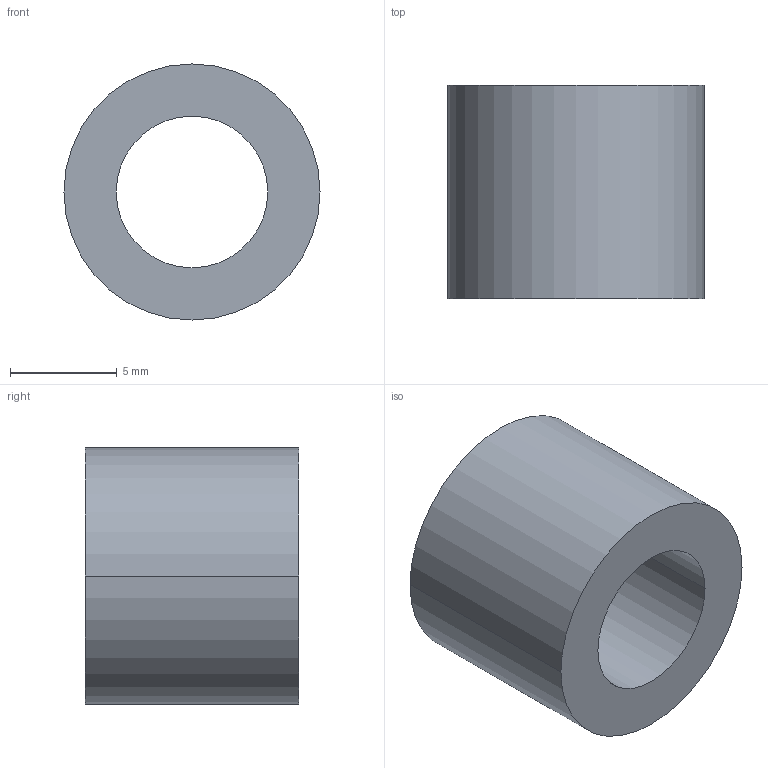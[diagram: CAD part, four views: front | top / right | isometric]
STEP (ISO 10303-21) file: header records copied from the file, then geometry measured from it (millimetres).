
FILE_DESCRIPTION (( 'STEP AP203' ), '1' );
FILE_NAME ('30800.WPP12D7.1.step', '2019-01-23T22:27:12', ( '' ), ( '' ), 'SwSTEP 2.0', 'SolidWorks 2017', '' );
FILE_SCHEMA (( 'CONFIG_CONTROL_DESIGN' ));
Length unit declared in the file: millimetre
Products named in the file (1): 30800.WPP12D7.1
Bounding box: 12 x 10 x 12 mm (x, y, z)
Volume: 723.3 mm3; surface area: 733.7 mm2
Topology: 1 solids, 1 shells, 8 faces, 16 edges, 10 vertices
Faces by surface type: cylinder 4, torus 2, plane 2
Entity records: 297 total; most frequent: DIRECTION 46, CARTESIAN_POINT 35, ORIENTED_EDGE 32, AXIS2_PLACEMENT_3D 21, EDGE_CURVE 16, CIRCLE 12, EDGE_LOOP 10, VERTEX_POINT 10
